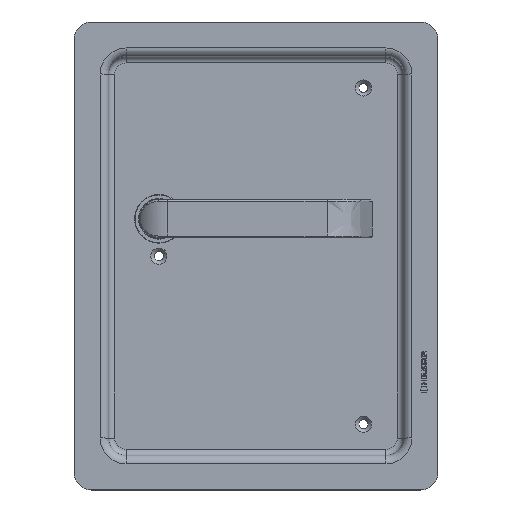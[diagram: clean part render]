
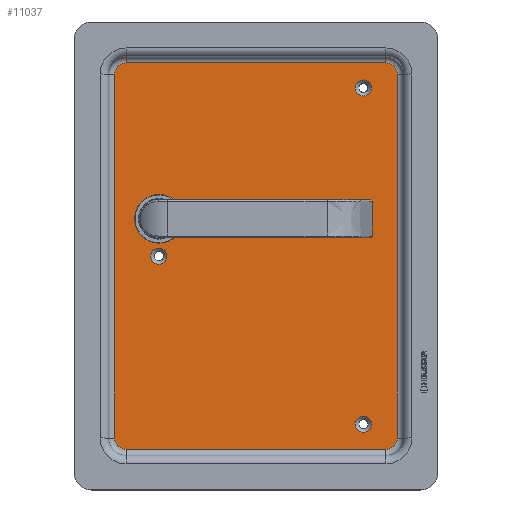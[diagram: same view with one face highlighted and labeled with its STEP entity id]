
A CAD part, top view. The second image highlights one B-rep face of the part: STEP entity #11037.
In plain terms, the highlighted planar face has unit normal (0, 0, 1).
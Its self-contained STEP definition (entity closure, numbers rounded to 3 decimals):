
#720=LINE('',#14739,#1673);
#721=LINE('',#14747,#1674);
#722=LINE('',#14757,#1675);
#725=LINE('',#14769,#1678);
#1673=VECTOR('',#12462,10.);
#1674=VECTOR('',#12473,10.);
#1675=VECTOR('',#12486,10.);
#1678=VECTOR('',#12501,10.);
#2676=FACE_BOUND('',#3609,.T.);
#2677=FACE_BOUND('',#3610,.T.);
#2678=FACE_BOUND('',#3611,.T.);
#2679=FACE_BOUND('',#3612,.T.);
#2964=FACE_OUTER_BOUND('',#3608,.T.);
#3608=EDGE_LOOP('',(#7968,#7969,#7970,#7971,#7972,#7973,#7974,#7975));
#3609=EDGE_LOOP('',(#7976));
#3610=EDGE_LOOP('',(#7977));
#3611=EDGE_LOOP('',(#7978));
#3612=EDGE_LOOP('',(#7979));
#4124=CIRCLE('',#11565,6.5);
#4127=CIRCLE('',#11570,6.5);
#4130=CIRCLE('',#11575,6.5);
#4134=CIRCLE('',#11581,6.5);
#4157=CIRCLE('',#11731,4.65);
#4158=CIRCLE('',#11733,4.65);
#4159=CIRCLE('',#11735,14.);
#4160=CIRCLE('',#11736,4.65);
#4340=VERTEX_POINT('',#14732);
#4341=VERTEX_POINT('',#14734);
#4342=VERTEX_POINT('',#14738);
#4343=VERTEX_POINT('',#14742);
#4344=VERTEX_POINT('',#14746);
#4345=VERTEX_POINT('',#14750);
#4347=VERTEX_POINT('',#14756);
#4349=VERTEX_POINT('',#14762);
#4627=VERTEX_POINT('',#16332);
#4628=VERTEX_POINT('',#16335);
#4629=VERTEX_POINT('',#16338);
#4630=VERTEX_POINT('',#16340);
#5412=EDGE_CURVE('',#4341,#4340,#4124,.T.);
#5414=EDGE_CURVE('',#4342,#4341,#720,.T.);
#5416=EDGE_CURVE('',#4343,#4342,#4127,.T.);
#5418=EDGE_CURVE('',#4344,#4343,#721,.T.);
#5420=EDGE_CURVE('',#4345,#4344,#4130,.T.);
#5423=EDGE_CURVE('',#4347,#4345,#722,.T.);
#5426=EDGE_CURVE('',#4349,#4347,#4134,.T.);
#5430=EDGE_CURVE('',#4340,#4349,#725,.T.);
#5851=EDGE_CURVE('',#4627,#4627,#4157,.T.);
#5852=EDGE_CURVE('',#4628,#4628,#4158,.T.);
#5853=EDGE_CURVE('',#4629,#4629,#4159,.T.);
#5854=EDGE_CURVE('',#4630,#4630,#4160,.T.);
#7968=ORIENTED_EDGE('',*,*,#5430,.T.);
#7969=ORIENTED_EDGE('',*,*,#5426,.T.);
#7970=ORIENTED_EDGE('',*,*,#5423,.T.);
#7971=ORIENTED_EDGE('',*,*,#5420,.T.);
#7972=ORIENTED_EDGE('',*,*,#5418,.T.);
#7973=ORIENTED_EDGE('',*,*,#5416,.T.);
#7974=ORIENTED_EDGE('',*,*,#5414,.T.);
#7975=ORIENTED_EDGE('',*,*,#5412,.T.);
#7976=ORIENTED_EDGE('',*,*,#5853,.T.);
#7977=ORIENTED_EDGE('',*,*,#5852,.F.);
#7978=ORIENTED_EDGE('',*,*,#5851,.F.);
#7979=ORIENTED_EDGE('',*,*,#5854,.F.);
#10013=PLANE('',#11734);
#11037=ADVANCED_FACE('',(#2964,#2676,#2677,#2678,#2679),#10013,.F.);
#11565=AXIS2_PLACEMENT_3D('',#14735,#12456,#12457);
#11570=AXIS2_PLACEMENT_3D('',#14743,#12467,#12468);
#11575=AXIS2_PLACEMENT_3D('',#14751,#12478,#12479);
#11581=AXIS2_PLACEMENT_3D('',#14763,#12492,#12493);
#11731=AXIS2_PLACEMENT_3D('',#16333,#13072,#13073);
#11733=AXIS2_PLACEMENT_3D('',#16336,#13076,#13077);
#11734=AXIS2_PLACEMENT_3D('',#16337,#13078,#13079);
#11735=AXIS2_PLACEMENT_3D('',#16339,#13080,#13081);
#11736=AXIS2_PLACEMENT_3D('',#16341,#13082,#13083);
#12456=DIRECTION('center_axis',(0.,0.,
1.));
#12457=DIRECTION('ref_axis',(0.707,0.707,0.));
#12462=DIRECTION('',(0.,1.,0.));
#12467=DIRECTION('center_axis',(0.,0.,
1.));
#12468=DIRECTION('ref_axis',(0.707,-0.707,0.));
#12473=DIRECTION('',(1.,0.,0.));
#12478=DIRECTION('center_axis',(0.,0.,
1.));
#12479=DIRECTION('ref_axis',(-0.707,-0.707,0.));
#12486=DIRECTION('',(0.,-1.,0.));
#12492=DIRECTION('center_axis',(0.,0.,
1.));
#12493=DIRECTION('ref_axis',(-0.707,0.707,0.));
#12501=DIRECTION('',(-1.,0.,0.));
#13072=DIRECTION('center_axis',(0.,0.,
1.));
#13073=DIRECTION('ref_axis',(1.,0.,0.));
#13076=DIRECTION('center_axis',(0.,0.,
1.));
#13077=DIRECTION('ref_axis',(1.,0.,0.));
#13078=DIRECTION('center_axis',(0.,0.,
-1.));
#13079=DIRECTION('ref_axis',(1.,0.,0.));
#13080=DIRECTION('center_axis',(0.,0.,
-1.));
#13081=DIRECTION('ref_axis',(0.,-1.,0.));
#13082=DIRECTION('center_axis',(0.,0.,
1.));
#13083=DIRECTION('ref_axis',(1.,0.,0.));
#14732=CARTESIAN_POINT('',(71.893,122.762,-20.));
#14734=CARTESIAN_POINT('',(78.393,116.262,-20.));
#14735=CARTESIAN_POINT('Origin',(71.893,116.262,-20.));
#14738=CARTESIAN_POINT('',(78.393,-93.738,-20.));
#14739=CARTESIAN_POINT('',(78.393,-41.238,-20.));
#14742=CARTESIAN_POINT('',(71.893,-100.238,-20.));
#14743=CARTESIAN_POINT('Origin',(71.893,-93.738,-20.));
#14746=CARTESIAN_POINT('',(-78.107,-100.238,-20.));
#14747=CARTESIAN_POINT('',(-40.607,-100.238,-20.));
#14750=CARTESIAN_POINT('',(-84.607,-93.738,-20.));
#14751=CARTESIAN_POINT('Origin',(-78.107,-93.738,-20.));
#14756=CARTESIAN_POINT('',(-84.607,116.262,-20.));
#14757=CARTESIAN_POINT('',(-84.607,63.762,-20.));
#14762=CARTESIAN_POINT('',(-78.107,122.762,-20.));
#14763=CARTESIAN_POINT('Origin',(-78.107,116.262,-20.));
#14769=CARTESIAN_POINT('',(34.393,122.762,-20.));
#16332=CARTESIAN_POINT('',(-63.757,11.262,-20.));
#16333=CARTESIAN_POINT('Origin',(-59.107,11.262,-20.));
#16335=CARTESIAN_POINT('',(54.243,108.262,-20.));
#16336=CARTESIAN_POINT('Origin',(58.893,108.262,-20.));
#16337=CARTESIAN_POINT('Origin',(-3.107,11.262,-20.));
#16338=CARTESIAN_POINT('',(-59.107,46.762,-20.));
#16339=CARTESIAN_POINT('Origin',(-59.107,32.762,-20.));
#16340=CARTESIAN_POINT('',(54.243,-85.738,-20.));
#16341=CARTESIAN_POINT('Origin',(58.893,-85.738,-20.));
